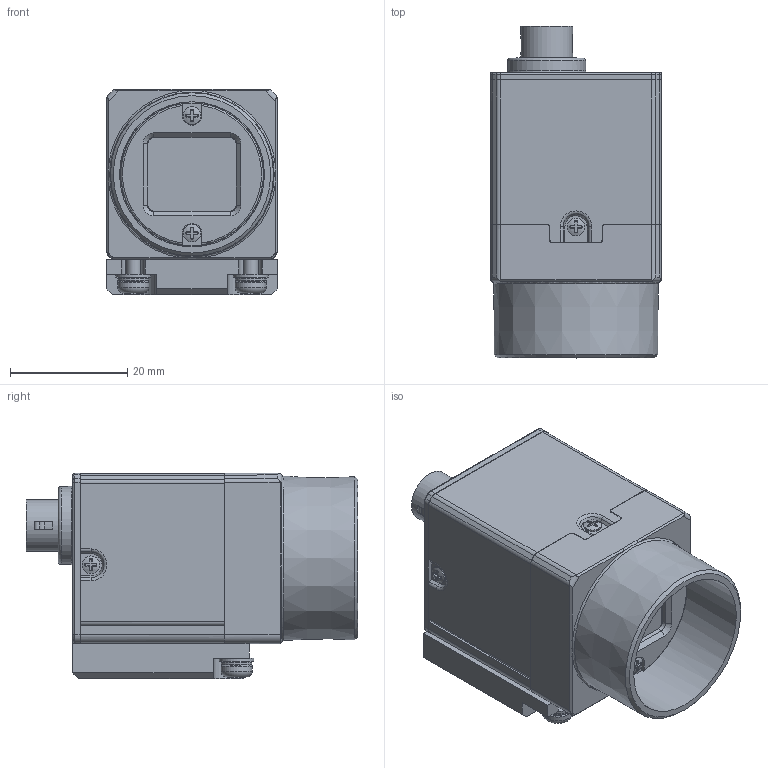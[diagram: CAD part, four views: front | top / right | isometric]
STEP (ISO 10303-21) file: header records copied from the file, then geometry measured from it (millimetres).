
FILE_DESCRIPTION(('STEP AP214'),'1');
FILE_NAME('CS_type-e(USB).stp','2026-06-02T01:43:23',(' '),(' '),'Spatial InterOp 3D',' ',' ');
FILE_SCHEMA(('AUTOMOTIVE_DESIGN { 1 0 10303 214 1 1 1 1 }'));
Length unit declared in the file: metre
Products named in the file (3): CS_type-e(USB); Component1; Component2
Assembly tree (2 placements, depth 2):
  CS_type-e(USB)
    Component1
    Component2
Bounding box: 29 x 56.47 x 35 mm (x, y, z)
Volume: 19282.2 mm3; surface area: 19731 mm2
Topology: 5 solids, 6 shells, 2512 faces, 6817 edges, 4306 vertices
Faces by surface type: plane 1231, cylinder 571, cone 295, bspline 244, torus 152, sphere 19
Full cylindrical faces by diameter (mm): 0.4 x6, 0.559 x1, 0.7 x1, 0.813 x1, 1.6 x6, 2.235 x2, 2.4 x6, 2.5 x6, 3 x9, 4 x1, 5.1 x1, 5.3 x3, 5.6 x1, 5.7 x1, 5.9 x3, 8 x1, 8.85 x1, 11 x2, 24 x1, 24.7 x1
Entity records: 145040 total; most frequent: CARTESIAN_POINT 30015, ORIENTED_EDGE 13196, DIRECTION 12648, STYLED_ITEM 9109, PRESENTATION_STYLE_ASSIGNMENT 9109, COLOUR_RGB 9109, EDGE_CURVE 6598, CURVE_STYLE 6592
